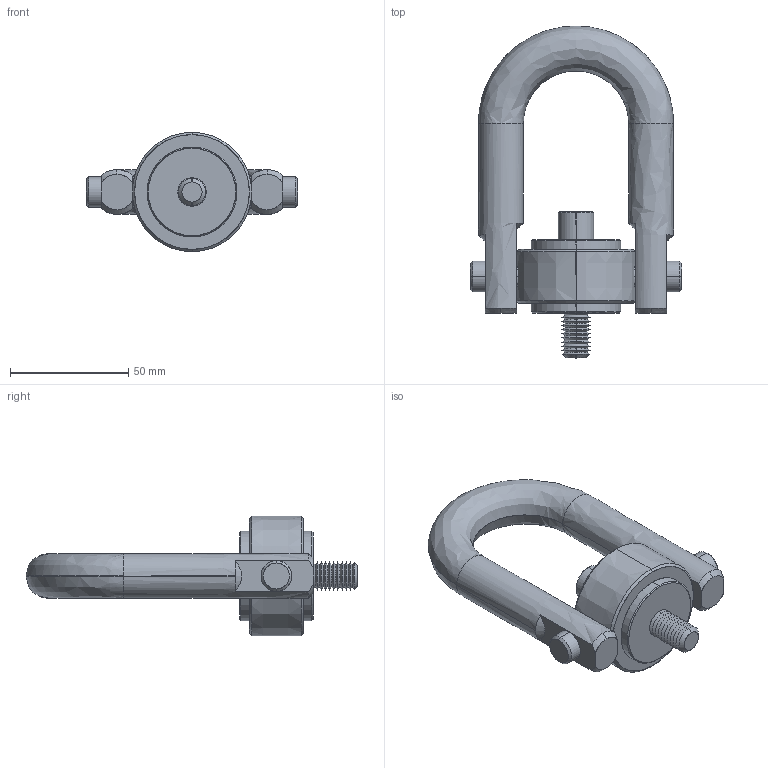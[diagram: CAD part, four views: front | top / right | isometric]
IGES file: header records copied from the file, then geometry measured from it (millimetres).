
Start section: SolidWorks IGES file using analytic representation for surfaces
Global section: file name: C:\Users\liam_\OneDrive\Documents\WORK\Work for WixRoyd\Job Files\J-00025 - Matt Davis CAD - 20191106\04. CAD Drawings\Wixroyd20191106\63572_v2\63572_v2_20191120_IGES\63572.W0121.igs; native system: SolidWorks 2017; preprocessor: SolidWorks 2017; author: liam_; date: 191120.203400; units: millimetre
Bounding box: 89.4 x 140.4 x 50.5 mm (x, y, z)
Surface area: 32117 mm2 (no closed solid volume)
Topology: 0 solids, 0 shells, 116 faces, 1482 edges, 1480 vertices
Faces by surface type: revolution 88, bspline 28
